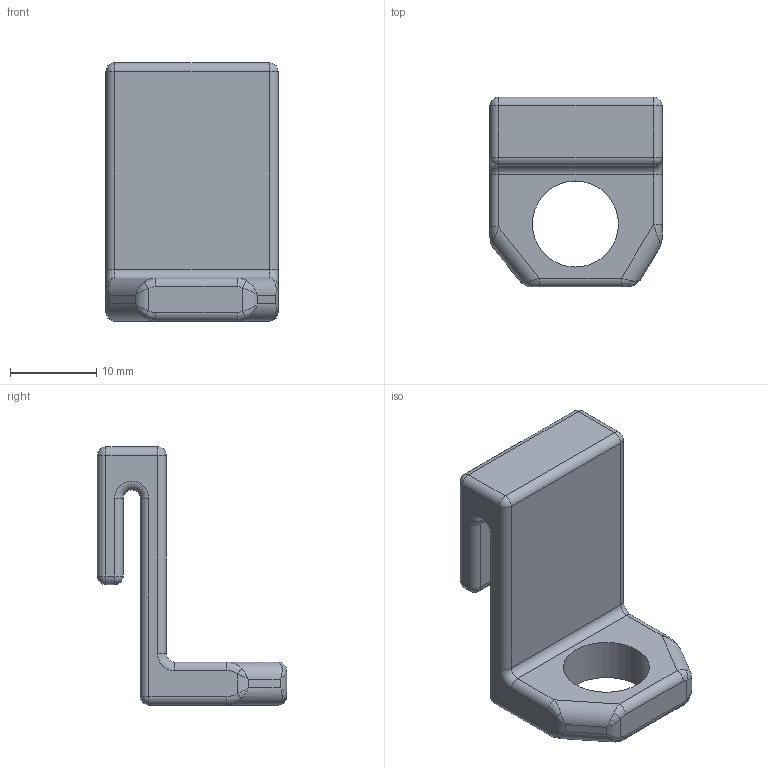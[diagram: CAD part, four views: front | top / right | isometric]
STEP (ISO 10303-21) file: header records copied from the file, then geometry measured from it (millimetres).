
FILE_DESCRIPTION(/* description */ (''),/* implementation_level */ '2;1');
FILE_NAME(/* name */ 'Bowelhook.step',/* time_stamp */ '2023-06-05T16:54:59-04:00',/* author */ (''),/* organization */ (''),/* preprocessor_version */ 'ST-DEVELOPER v19.2',/* originating_system */ 'Autodesk Translation Framework v12.6.0.85',/* authorisation */ '');
FILE_SCHEMA (('AUTOMOTIVE_DESIGN { 1 0 10303 214 3 1 1 }'));
Length unit declared in the file: millimetre
Products named in the file (1): Bowelhook
Bounding box: 20 x 22 x 30 mm (x, y, z)
Volume: 3796.3 mm3; surface area: 2697.6 mm2
Topology: 1 solids, 1 shells, 77 faces, 171 edges, 88 vertices
Faces by surface type: cylinder 34, bspline 16, plane 13, sphere 10, torus 4
Full cylindrical faces by diameter (mm): 10 x1
Entity records: 2319 total; most frequent: CARTESIAN_POINT 622, DIRECTION 383, ORIENTED_EDGE 326, EDGE_CURVE 163, AXIS2_PLACEMENT_3D 158, VERTEX_POINT 88, EDGE_LOOP 79, FACE_OUTER_BOUND 77
